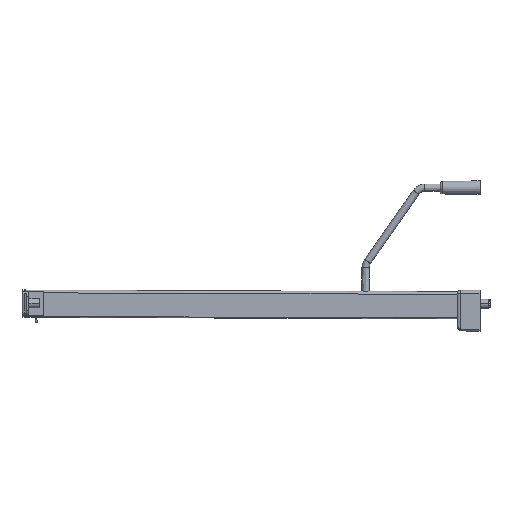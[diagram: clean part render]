
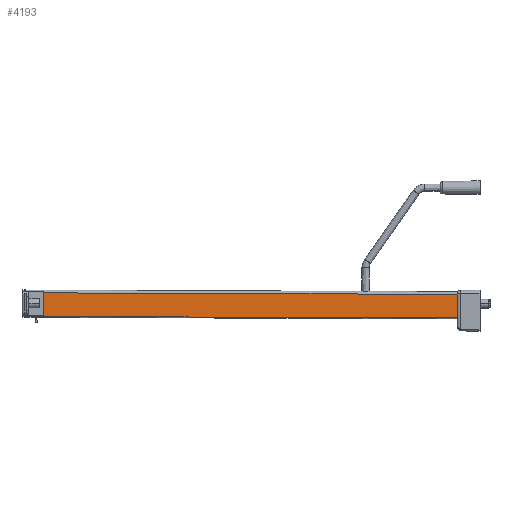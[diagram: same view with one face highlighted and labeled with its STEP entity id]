
A CAD part, left-side view. The second image highlights one B-rep face of the part: STEP entity #4193.
In plain terms, the highlighted planar face has unit normal (-1, 0, 0).
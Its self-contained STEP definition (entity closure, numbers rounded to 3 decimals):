
#973 = EDGE_LOOP ( 'NONE', ( #5247, #5248, #5249, #5250, #5251, #5252 ) ) ;
#1548 = FACE_OUTER_BOUND ( 'NONE', #973, .T. ) ;
#1681 = LINE ( 'NONE', #3209, #1682 ) ;
#1682 = VECTOR ( 'NONE', #3210, 1000. ) ;
#1683 = LINE ( 'NONE', #3211, #1684 ) ;
#1684 = VECTOR ( 'NONE', #3212, 1000. ) ;
#1685 = LINE ( 'NONE', #3213, #1686 ) ;
#1686 = VECTOR ( 'NONE', #3214, 1000. ) ;
#1687 = LINE ( 'NONE', #3215, #1688 ) ;
#1688 = VECTOR ( 'NONE', #3216, 1000. ) ;
#1689 = LINE ( 'NONE', #3217, #1690 ) ;
#1690 = VECTOR ( 'NONE', #3218, 1000. ) ;
#1691 = LINE ( 'NONE', #3219, #1692 ) ;
#1692 = VECTOR ( 'NONE', #3220, 1000. ) ;
#2529 = PLANE ( 'NONE',  #5052 ) ;
#2530 = CARTESIAN_POINT ( 'NONE',  ( -5.25, 534.234, -13.679 ) ) ;
#2531 = DIRECTION ( 'NONE',  ( 1., 0., 0. ) ) ;
#2532 = DIRECTION ( 'NONE',  ( 0., 0., 1. ) ) ;
#2851 = VERTEX_POINT ( 'NONE', #4247 ) ;
#2866 = VERTEX_POINT ( 'NONE', #4262 ) ;
#2873 = VERTEX_POINT ( 'NONE', #4269 ) ;
#2877 = VERTEX_POINT ( 'NONE', #4273 ) ;
#2879 = VERTEX_POINT ( 'NONE', #4275 ) ;
#2884 = VERTEX_POINT ( 'NONE', #4280 ) ;
#3209 = CARTESIAN_POINT ( 'NONE',  ( -5.25, 534.141, 12.32 ) ) ;
#3210 = DIRECTION ( 'NONE',  ( 0., -1., -0.004 ) ) ;
#3211 = CARTESIAN_POINT ( 'NONE',  ( -5.25, 25., 15. ) ) ;
#3212 = DIRECTION ( 'NONE',  ( 0., 0., 1. ) ) ;
#3213 = CARTESIAN_POINT ( 'NONE',  ( -5.25, 534.234, -13.679 ) ) ;
#3214 = DIRECTION ( 'NONE',  ( 0., -1., -0.004 ) ) ;
#3215 = CARTESIAN_POINT ( 'NONE',  ( -5.25, 501.4, -13.679 ) ) ;
#3216 = DIRECTION ( 'NONE',  ( 0., 0., 1. ) ) ;
#3217 = CARTESIAN_POINT ( 'NONE',  ( -5.25, 480.9, -12.42 ) ) ;
#3218 = DIRECTION ( 'NONE',  ( 0., 1., 0. ) ) ;
#3219 = CARTESIAN_POINT ( 'NONE',  ( -5.25, 480.9, 13.6 ) ) ;
#3220 = DIRECTION ( 'NONE',  ( 0., 0., -1. ) ) ;
#4193 = ADVANCED_FACE ( 'NONE', ( #1548 ), #2529, .F. ) ;
#4247 = CARTESIAN_POINT ( 'NONE',  ( -5.25, 25., -15.5 ) ) ;
#4262 = CARTESIAN_POINT ( 'NONE',  ( -5.25, 501.4, -13.797 ) ) ;
#4269 = CARTESIAN_POINT ( 'NONE',  ( -5.25, 501.4, -12.42 ) ) ;
#4273 = CARTESIAN_POINT ( 'NONE',  ( -5.25, 480.9, -12.42 ) ) ;
#4275 = CARTESIAN_POINT ( 'NONE',  ( -5.25, 25., 10.5 ) ) ;
#4280 = CARTESIAN_POINT ( 'NONE',  ( -5.25, 480.9, 12.13 ) ) ;
#4798 = EDGE_CURVE ( 'NONE', #2884, #2879, #1681, .T. ) ;
#4799 = EDGE_CURVE ( 'NONE', #2851, #2879, #1683, .T. ) ;
#4800 = EDGE_CURVE ( 'NONE', #2866, #2851, #1685, .T. ) ;
#4801 = EDGE_CURVE ( 'NONE', #2866, #2873, #1687, .T. ) ;
#4802 = EDGE_CURVE ( 'NONE', #2877, #2873, #1689, .T. ) ;
#4803 = EDGE_CURVE ( 'NONE', #2884, #2877, #1691, .T. ) ;
#5052 = AXIS2_PLACEMENT_3D ( 'NONE', #2530, #2531, #2532 ) ;
#5247 = ORIENTED_EDGE ( 'NONE', *, *, #4803, .T. ) ;
#5248 = ORIENTED_EDGE ( 'NONE', *, *, #4802, .T. ) ;
#5249 = ORIENTED_EDGE ( 'NONE', *, *, #4801, .F. ) ;
#5250 = ORIENTED_EDGE ( 'NONE', *, *, #4800, .T. ) ;
#5251 = ORIENTED_EDGE ( 'NONE', *, *, #4799, .T. ) ;
#5252 = ORIENTED_EDGE ( 'NONE', *, *, #4798, .F. ) ;
